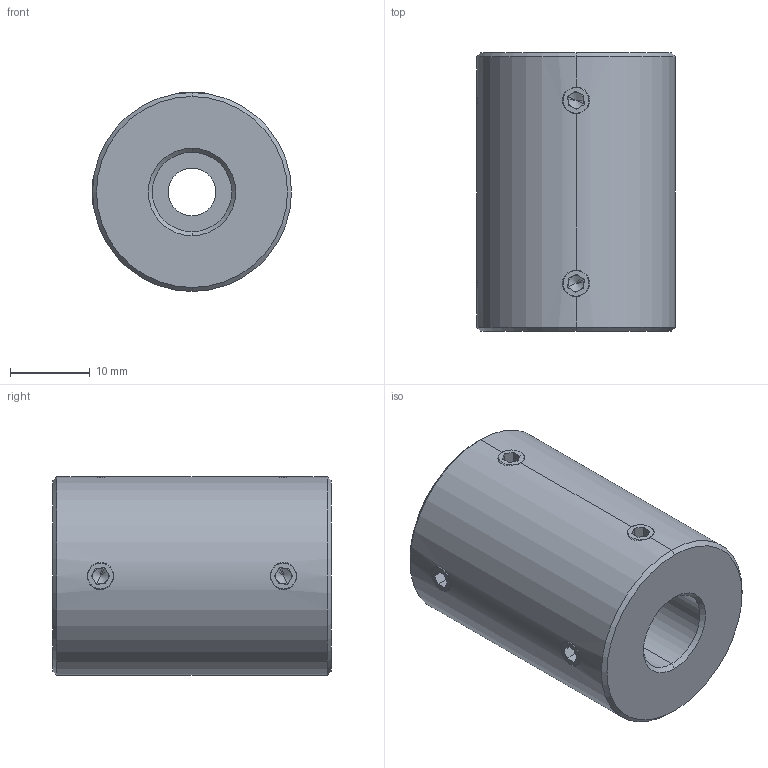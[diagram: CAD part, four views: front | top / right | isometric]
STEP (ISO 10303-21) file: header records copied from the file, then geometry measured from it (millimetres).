
FILE_DESCRIPTION (( 'STEP AP214' ), '1' );
FILE_NAME ('LL-D-D25L35-6-10½¨Ä£.STEP', '2022-07-23T00:37:00', ( '' ), ( '' ), 'SwSTEP 2.0', 'SolidWorks 2022', '' );
FILE_SCHEMA (( 'AUTOMOTIVE_DESIGN' ));
Length unit declared in the file: millimetre
Products named in the file (1): LL-D-D25L35-6-10膘耀
Bounding box: 25 x 35 x 25 mm (x, y, z)
Volume: 15103 mm3; surface area: 4754 mm2
Topology: 1 solids, 1 shells, 113 faces, 286 edges, 176 vertices
Faces by surface type: plane 59, cone 32, cylinder 22
Entity records: 3720 total; most frequent: CARTESIAN_POINT 1010, DIRECTION 558, ORIENTED_EDGE 556, EDGE_CURVE 278, AXIS2_PLACEMENT_3D 206, VERTEX_POINT 176, LINE 146, VECTOR 146
